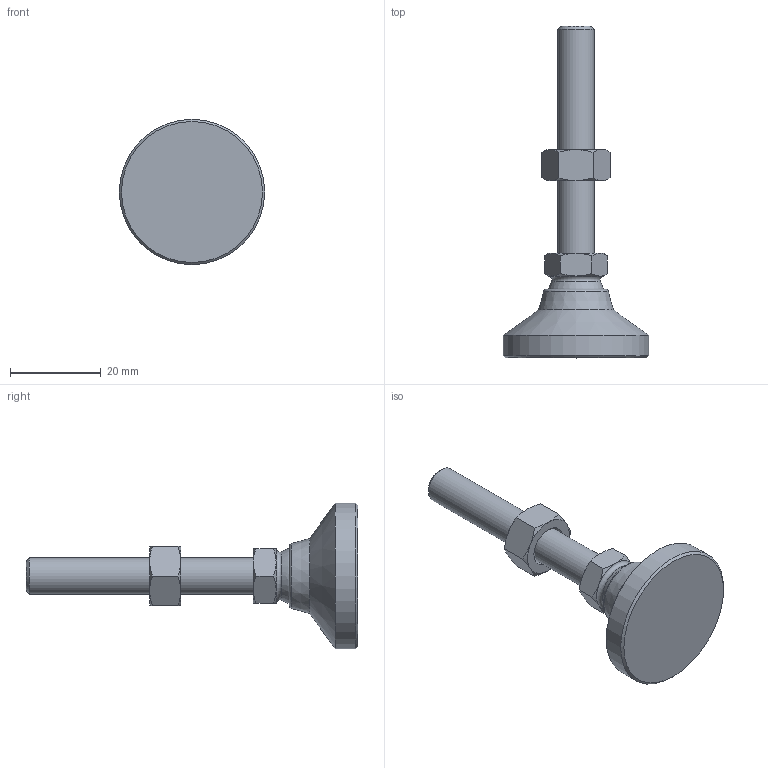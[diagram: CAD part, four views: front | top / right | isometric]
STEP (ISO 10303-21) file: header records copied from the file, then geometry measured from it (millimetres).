
FILE_DESCRIPTION( ( 'STEP AP214' ), ' ' );
FILE_NAME( 'O:/ganter_2015/teil_2/2_5/gn343_2/gn343_2_os/Levelling foot with threaded stud GN 343.2-32-M8-50-OS-(0).stp', '2015-10-26T09:06:45', ( '' ), ( '' ), ' ', 'PARTsolutions', ' ' );
FILE_SCHEMA( ( 'AUTOMOTIVE_DESIGN { 1 0 10303 214 1 1 1 1 }' ) );
Length unit declared in the file: millimetre
Products named in the file (4): Levelling foot with threaded stud GN 343.2-32-M8-50-OS-(0); _Levelling foot with threaded stud GN 343.2-32-M8-50-OS-(0)_foot; _Levelling foot with threaded stud GN 343.2-32-M8-50-OS-(0)_screw; _Stainless Steel-Levelling feet GN 343.2-32-M8-50-OS-(0)_nut
Assembly tree (3 placements, depth 2):
  Levelling foot with threaded stud GN 343.2-32-M8-50-OS-(0)
    _Levelling foot with threaded stud GN 343.2-32-M8-50-OS-(0)_foot
    _Levelling foot with threaded stud GN 343.2-32-M8-50-OS-(0)_screw
    _Stainless Steel-Levelling feet GN 343.2-32-M8-50-OS-(0)_nut
Bounding box: 32 x 73 x 32 mm (x, y, z)
Volume: 11654.1 mm3; surface area: 5210.3 mm2
Topology: 3 solids, 3 shells, 55 faces, 116 edges, 67 vertices
Faces by surface type: cone 30, plane 18, cylinder 3, torus 2, sphere 2
Full cylindrical faces by diameter (mm): 6.647 x1, 8 x1, 32 x1
Entity records: 2022 total; most frequent: CARTESIAN_POINT 479, DIRECTION 208, ORIENTED_EDGE 198, EDGE_CURVE 99, AXIS2_PLACEMENT_3D 98, EDGE_LOOP 70, VERTEX_POINT 65, FACE_OUTER_BOUND 60
